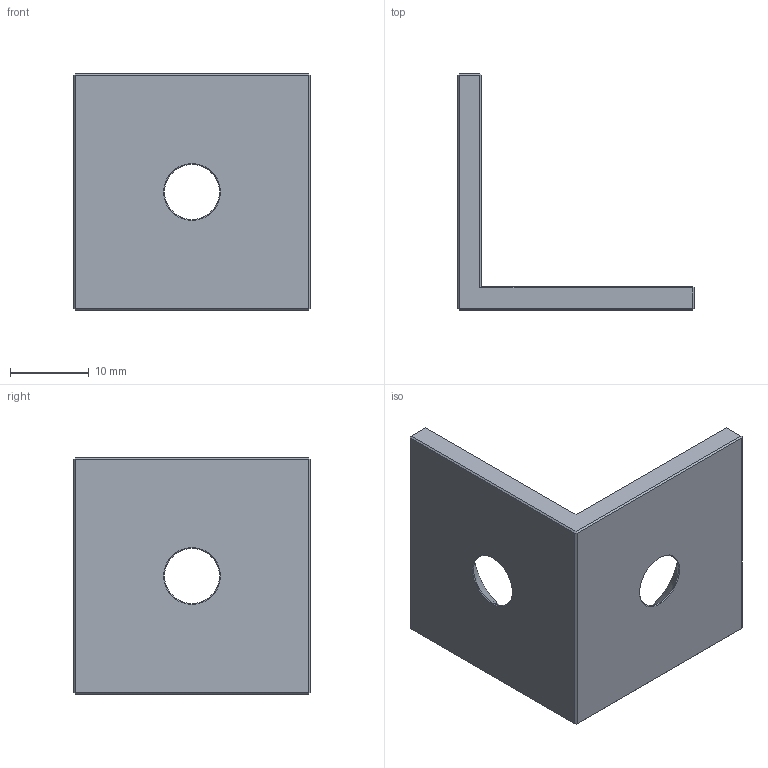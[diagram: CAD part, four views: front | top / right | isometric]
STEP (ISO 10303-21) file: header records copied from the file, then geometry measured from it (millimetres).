
FILE_DESCRIPTION (( 'STEP AP203' ), '1' );
FILE_NAME ('358015_Winkel 30x30x30 t=3, 2x Am6.step', '2022-04-12T06:24:51', ( '' ), ( '' ), 'SwSTEP 2.0', 'SolidWorks 2021', '' );
FILE_SCHEMA (( 'CONFIG_CONTROL_DESIGN' ));
Length unit declared in the file: millimetre
Products named in the file (1): 358015_Winkel 30x30x30 t=3, 2x Am6
Bounding box: 30 x 30 x 30 mm (x, y, z)
Volume: 4655.1 mm3; surface area: 3818.8 mm2
Topology: 1 solids, 1 shells, 43 faces, 89 edges, 48 vertices
Faces by surface type: plane 35, cone 8
Entity records: 1170 total; most frequent: DIRECTION 191, CARTESIAN_POINT 181, ORIENTED_EDGE 178, EDGE_CURVE 89, VECTOR 75, LINE 75, AXIS2_PLACEMENT_3D 58, VERTEX_POINT 48
